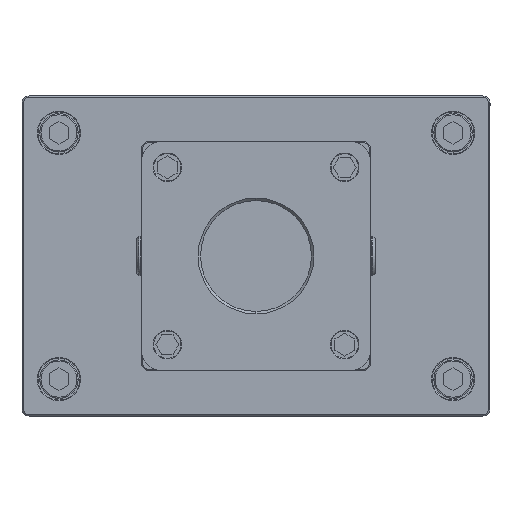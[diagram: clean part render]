
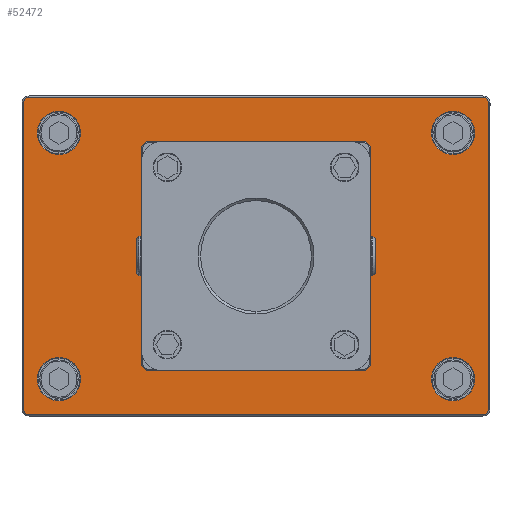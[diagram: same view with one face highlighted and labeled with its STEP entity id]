
A CAD part, front view. The second image highlights one B-rep face of the part: STEP entity #52472.
In plain terms, the highlighted planar face has unit normal (0, -1, 0) as drawn and (0, 1, 0) by its records, which use the part's own axes.
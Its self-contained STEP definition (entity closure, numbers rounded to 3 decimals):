
#50924=CARTESIAN_POINT('',(0.,9.,0.));
#50925=DIRECTION('',(0.,-1.,0.));
#50926=DIRECTION('',(1.,0.,0.));
#50927=AXIS2_PLACEMENT_3D('',#50924,#50925,#50926);
#50929=CARTESIAN_POINT('',(0.,9.,0.));
#50930=DIRECTION('',(0.,-1.,0.));
#50931=DIRECTION('',(-1.,0.,0.));
#50932=AXIS2_PLACEMENT_3D('',#50929,#50930,#50931);
#50934=CARTESIAN_POINT('',(-92.,9.,-62.));
#50935=DIRECTION('',(0.,1.,0.));
#50936=DIRECTION('',(0.,0.,-1.));
#50937=AXIS2_PLACEMENT_3D('',#50934,#50935,#50936);
#50939=DIRECTION('',(-1.,0.,0.));
#50940=VECTOR('',#50939,184.);
#50941=CARTESIAN_POINT('',(92.,9.,
-64.5));
#50942=LINE('',#50941,#50940);
#50943=CARTESIAN_POINT('',(92.,9.,-62.));
#50944=DIRECTION('',(0.,1.,0.));
#50945=DIRECTION('',(1.,0.,0.));
#50946=AXIS2_PLACEMENT_3D('',#50943,#50944,#50945);
#50948=DIRECTION('',(0.,0.,-1.));
#50949=VECTOR('',#50948,124.);
#50950=CARTESIAN_POINT('',(94.5,9.,62.));
#50951=LINE('',#50950,#50949);
#50952=CARTESIAN_POINT('',(92.,9.,62.));
#50953=DIRECTION('',(0.,1.,0.));
#50954=DIRECTION('',(0.,0.,1.));
#50955=AXIS2_PLACEMENT_3D('',#50952,#50953,#50954);
#50957=DIRECTION('',(1.,0.,0.));
#50958=VECTOR('',#50957,184.);
#50959=CARTESIAN_POINT('',(-92.,9.,
64.5));
#50960=LINE('',#50959,#50958);
#50961=CARTESIAN_POINT('',(-92.,9.,62.));
#50962=DIRECTION('',(0.,1.,0.));
#50963=DIRECTION('',(-1.,0.,0.));
#50964=AXIS2_PLACEMENT_3D('',#50961,#50962,#50963);
#50966=DIRECTION('',(0.,0.,1.));
#50967=VECTOR('',#50966,124.);
#50968=CARTESIAN_POINT('',(-94.5,9.,
-62.));
#50969=LINE('',#50968,#50967);
#50970=CARTESIAN_POINT('',(80.,9.,50.));
#50971=DIRECTION('',(0.,-1.,0.));
#50972=DIRECTION('',(1.,0.,0.));
#50973=AXIS2_PLACEMENT_3D('',#50970,#50971,#50972);
#50975=CARTESIAN_POINT('',(80.,9.,50.));
#50976=DIRECTION('',(0.,-1.,0.));
#50977=DIRECTION('',(-1.,0.,0.));
#50978=AXIS2_PLACEMENT_3D('',#50975,#50976,#50977);
#50980=CARTESIAN_POINT('',(-80.,9.,50.));
#50981=DIRECTION('',(0.,-1.,0.));
#50982=DIRECTION('',(1.,0.,0.));
#50983=AXIS2_PLACEMENT_3D('',#50980,#50981,#50982);
#50985=CARTESIAN_POINT('',(-80.,9.,50.));
#50986=DIRECTION('',(0.,-1.,0.));
#50987=DIRECTION('',(-1.,0.,0.));
#50988=AXIS2_PLACEMENT_3D('',#50985,#50986,#50987);
#50990=CARTESIAN_POINT('',(80.,9.,-50.));
#50991=DIRECTION('',(0.,-1.,0.));
#50992=DIRECTION('',(1.,0.,0.));
#50993=AXIS2_PLACEMENT_3D('',#50990,#50991,#50992);
#50995=CARTESIAN_POINT('',(80.,9.,-50.));
#50996=DIRECTION('',(0.,-1.,0.));
#50997=DIRECTION('',(-1.,0.,0.));
#50998=AXIS2_PLACEMENT_3D('',#50995,#50996,#50997);
#51000=CARTESIAN_POINT('',(-80.,9.,-50.));
#51001=DIRECTION('',(0.,-1.,0.));
#51002=DIRECTION('',(1.,0.,0.));
#51003=AXIS2_PLACEMENT_3D('',#51000,#51001,#51002);
#51005=CARTESIAN_POINT('',(-80.,9.,-50.));
#51006=DIRECTION('',(0.,-1.,0.));
#51007=DIRECTION('',(-1.,0.,0.));
#51008=AXIS2_PLACEMENT_3D('',#51005,#51006,#51007);
#51010=CARTESIAN_POINT('',(-36.,9.,-36.));
#51011=DIRECTION('',(0.,1.,0.));
#51012=DIRECTION('',(1.,0.,0.));
#51013=AXIS2_PLACEMENT_3D('',#51010,#51011,#51012);
#51015=CARTESIAN_POINT('',(-36.,9.,-36.));
#51016=DIRECTION('',(0.,1.,0.));
#51017=DIRECTION('',(-1.,0.,0.));
#51018=AXIS2_PLACEMENT_3D('',#51015,#51016,#51017);
#51020=CARTESIAN_POINT('',(-36.,9.,36.));
#51021=DIRECTION('',(0.,1.,0.));
#51022=DIRECTION('',(0.,0.,-1.));
#51023=AXIS2_PLACEMENT_3D('',#51020,#51021,#51022);
#51025=CARTESIAN_POINT('',(-36.,9.,36.));
#51026=DIRECTION('',(0.,1.,0.));
#51027=DIRECTION('',(0.,0.,1.));
#51028=AXIS2_PLACEMENT_3D('',#51025,#51026,#51027);
#51030=CARTESIAN_POINT('',(36.,9.,36.));
#51031=DIRECTION('',(0.,1.,0.));
#51032=DIRECTION('',(-1.,0.,0.));
#51033=AXIS2_PLACEMENT_3D('',#51030,#51031,#51032);
#51035=CARTESIAN_POINT('',(36.,9.,36.));
#51036=DIRECTION('',(0.,1.,0.));
#51037=DIRECTION('',(1.,0.,0.));
#51038=AXIS2_PLACEMENT_3D('',#51035,#51036,#51037);
#51040=CARTESIAN_POINT('',(36.,9.,-36.));
#51041=DIRECTION('',(0.,1.,0.));
#51042=DIRECTION('',(0.,0.,1.));
#51043=AXIS2_PLACEMENT_3D('',#51040,#51041,#51042);
#51045=CARTESIAN_POINT('',(36.,9.,-36.));
#51046=DIRECTION('',(0.,1.,0.));
#51047=DIRECTION('',(0.,0.,-1.));
#51048=AXIS2_PLACEMENT_3D('',#51045,#51046,#51047);
#51956=CARTESIAN_POINT('',(38.,9.,0.));
#51957=CARTESIAN_POINT('',(-38.,9.,0.));
#51958=VERTEX_POINT('',#51956);
#51959=VERTEX_POINT('',#51957);
#52004=CARTESIAN_POINT('',(-92.,9.,-64.5));
#52005=CARTESIAN_POINT('',(-94.5,9.,-62.));
#52006=VERTEX_POINT('',#52004);
#52007=VERTEX_POINT('',#52005);
#52012=CARTESIAN_POINT('',(-94.5,9.,
62.));
#52013=VERTEX_POINT('',#52012);
#52016=CARTESIAN_POINT('',(-92.,9.,64.5));
#52017=VERTEX_POINT('',#52016);
#52020=CARTESIAN_POINT('',(92.,9.,64.5));
#52021=VERTEX_POINT('',#52020);
#52024=CARTESIAN_POINT('',(94.5,9.,62.));
#52025=VERTEX_POINT('',#52024);
#52028=CARTESIAN_POINT('',(94.5,9.,
-62.));
#52029=VERTEX_POINT('',#52028);
#52032=CARTESIAN_POINT('',(92.,9.,-64.5));
#52033=VERTEX_POINT('',#52032);
#52052=CARTESIAN_POINT('',(88.8,9.,50.));
#52053=CARTESIAN_POINT('',(71.2,9.,50.));
#52054=VERTEX_POINT('',#52052);
#52055=VERTEX_POINT('',#52053);
#52076=CARTESIAN_POINT('',(-71.2,9.,50.));
#52077=CARTESIAN_POINT('',(-88.8,9.,50.));
#52078=VERTEX_POINT('',#52076);
#52079=VERTEX_POINT('',#52077);
#52092=CARTESIAN_POINT('',(88.8,9.,-50.));
#52093=CARTESIAN_POINT('',(71.2,9.,-50.));
#52094=VERTEX_POINT('',#52092);
#52095=VERTEX_POINT('',#52093);
#52100=CARTESIAN_POINT('',(-71.2,9.,-50.));
#52101=CARTESIAN_POINT('',(-88.8,9.,-50.));
#52102=VERTEX_POINT('',#52100);
#52103=VERTEX_POINT('',#52101);
#52200=CARTESIAN_POINT('',(-31.,9.,-36.));
#52201=CARTESIAN_POINT('',(-41.,9.,-36.));
#52202=VERTEX_POINT('',#52200);
#52203=VERTEX_POINT('',#52201);
#52208=CARTESIAN_POINT('',(-36.,9.,31.));
#52209=CARTESIAN_POINT('',(-36.,9.,41.));
#52210=VERTEX_POINT('',#52208);
#52211=VERTEX_POINT('',#52209);
#52216=CARTESIAN_POINT('',(31.,9.,36.));
#52217=CARTESIAN_POINT('',(41.,9.,36.));
#52218=VERTEX_POINT('',#52216);
#52219=VERTEX_POINT('',#52217);
#52224=CARTESIAN_POINT('',(36.,9.,-31.));
#52225=CARTESIAN_POINT('',(36.,9.,-41.));
#52226=VERTEX_POINT('',#52224);
#52227=VERTEX_POINT('',#52225);
#52396=CARTESIAN_POINT('',(0.,9.,0.));
#52397=DIRECTION('',(0.,1.,0.));
#52398=DIRECTION('',(1.,0.,0.));
#52399=AXIS2_PLACEMENT_3D('',#52396,#52397,#52398);
#52400=PLANE('',#52399);
#52402=ORIENTED_EDGE('',*,*,#52401,.F.);
#52404=ORIENTED_EDGE('',*,*,#52403,.F.);
#52406=ORIENTED_EDGE('',*,*,#52405,.F.);
#52408=ORIENTED_EDGE('',*,*,#52407,.F.);
#52410=ORIENTED_EDGE('',*,*,#52409,.F.);
#52412=ORIENTED_EDGE('',*,*,#52411,.F.);
#52414=ORIENTED_EDGE('',*,*,#52413,.F.);
#52416=ORIENTED_EDGE('',*,*,#52415,.F.);
#52417=EDGE_LOOP('',(#52402,#52404,#52406,#52408,#52410,#52412,#52414,#52416));
#52418=FACE_OUTER_BOUND('',#52417,.F.);
#52420=ORIENTED_EDGE('',*,*,#52419,.F.);
#52421=ORIENTED_EDGE('',*,*,#52386,.F.);
#52422=EDGE_LOOP('',(#52420,#52421));
#52423=FACE_BOUND('',#52422,.F.);
#52425=ORIENTED_EDGE('',*,*,#52424,.F.);
#52427=ORIENTED_EDGE('',*,*,#52426,.F.);
#52428=EDGE_LOOP('',(#52425,#52427));
#52429=FACE_BOUND('',#52428,.F.);
#52431=ORIENTED_EDGE('',*,*,#52430,.F.);
#52433=ORIENTED_EDGE('',*,*,#52432,.F.);
#52434=EDGE_LOOP('',(#52431,#52433));
#52435=FACE_BOUND('',#52434,.F.);
#52437=ORIENTED_EDGE('',*,*,#52436,.F.);
#52439=ORIENTED_EDGE('',*,*,#52438,.F.);
#52440=EDGE_LOOP('',(#52437,#52439));
#52441=FACE_BOUND('',#52440,.F.);
#52443=ORIENTED_EDGE('',*,*,#52442,.F.);
#52445=ORIENTED_EDGE('',*,*,#52444,.F.);
#52446=EDGE_LOOP('',(#52443,#52445));
#52447=FACE_BOUND('',#52446,.F.);
#52449=ORIENTED_EDGE('',*,*,#52448,.T.);
#52451=ORIENTED_EDGE('',*,*,#52450,.T.);
#52452=EDGE_LOOP('',(#52449,#52451));
#52453=FACE_BOUND('',#52452,.F.);
#52455=ORIENTED_EDGE('',*,*,#52454,.T.);
#52457=ORIENTED_EDGE('',*,*,#52456,.T.);
#52458=EDGE_LOOP('',(#52455,#52457));
#52459=FACE_BOUND('',#52458,.F.);
#52461=ORIENTED_EDGE('',*,*,#52460,.T.);
#52463=ORIENTED_EDGE('',*,*,#52462,.T.);
#52464=EDGE_LOOP('',(#52461,#52463));
#52465=FACE_BOUND('',#52464,.F.);
#52467=ORIENTED_EDGE('',*,*,#52466,.T.);
#52469=ORIENTED_EDGE('',*,*,#52468,.T.);
#52470=EDGE_LOOP('',(#52467,#52469));
#52471=FACE_BOUND('',#52470,.F.);
#52472=ADVANCED_FACE('',(#52418,#52423,#52429,#52435,#52441,#52447,#52453,
#52459,#52465,#52471),#52400,.T.);
#50928=CIRCLE('',#50927,38.);
#50933=CIRCLE('',#50932,38.);
#50938=CIRCLE('',#50937,2.5);
#50947=CIRCLE('',#50946,2.5);
#50956=CIRCLE('',#50955,2.5);
#50965=CIRCLE('',#50964,2.5);
#50974=CIRCLE('',#50973,8.8);
#50979=CIRCLE('',#50978,8.8);
#50984=CIRCLE('',#50983,8.8);
#50989=CIRCLE('',#50988,8.8);
#50994=CIRCLE('',#50993,8.8);
#50999=CIRCLE('',#50998,8.8);
#51004=CIRCLE('',#51003,8.8);
#51009=CIRCLE('',#51008,8.8);
#51014=CIRCLE('',#51013,5.);
#51019=CIRCLE('',#51018,5.);
#51024=CIRCLE('',#51023,5.);
#51029=CIRCLE('',#51028,5.);
#51034=CIRCLE('',#51033,5.);
#51039=CIRCLE('',#51038,5.);
#51044=CIRCLE('',#51043,5.);
#51049=CIRCLE('',#51048,5.);
#52386=EDGE_CURVE('',#51959,#51958,#50933,.T.);
#52401=EDGE_CURVE('',#52006,#52007,#50938,.T.);
#52403=EDGE_CURVE('',#52033,#52006,#50942,.T.);
#52405=EDGE_CURVE('',#52029,#52033,#50947,.T.);
#52407=EDGE_CURVE('',#52025,#52029,#50951,.T.);
#52409=EDGE_CURVE('',#52021,#52025,#50956,.T.);
#52411=EDGE_CURVE('',#52017,#52021,#50960,.T.);
#52413=EDGE_CURVE('',#52013,#52017,#50965,.T.);
#52415=EDGE_CURVE('',#52007,#52013,#50969,.T.);
#52419=EDGE_CURVE('',#51958,#51959,#50928,.T.);
#52424=EDGE_CURVE('',#52054,#52055,#50974,.T.);
#52426=EDGE_CURVE('',#52055,#52054,#50979,.T.);
#52430=EDGE_CURVE('',#52078,#52079,#50984,.T.);
#52432=EDGE_CURVE('',#52079,#52078,#50989,.T.);
#52436=EDGE_CURVE('',#52094,#52095,#50994,.T.);
#52438=EDGE_CURVE('',#52095,#52094,#50999,.T.);
#52442=EDGE_CURVE('',#52102,#52103,#51004,.T.);
#52444=EDGE_CURVE('',#52103,#52102,#51009,.T.);
#52448=EDGE_CURVE('',#52202,#52203,#51014,.T.);
#52450=EDGE_CURVE('',#52203,#52202,#51019,.T.);
#52454=EDGE_CURVE('',#52210,#52211,#51024,.T.);
#52456=EDGE_CURVE('',#52211,#52210,#51029,.T.);
#52460=EDGE_CURVE('',#52218,#52219,#51034,.T.);
#52462=EDGE_CURVE('',#52219,#52218,#51039,.T.);
#52466=EDGE_CURVE('',#52226,#52227,#51044,.T.);
#52468=EDGE_CURVE('',#52227,#52226,#51049,.T.);
